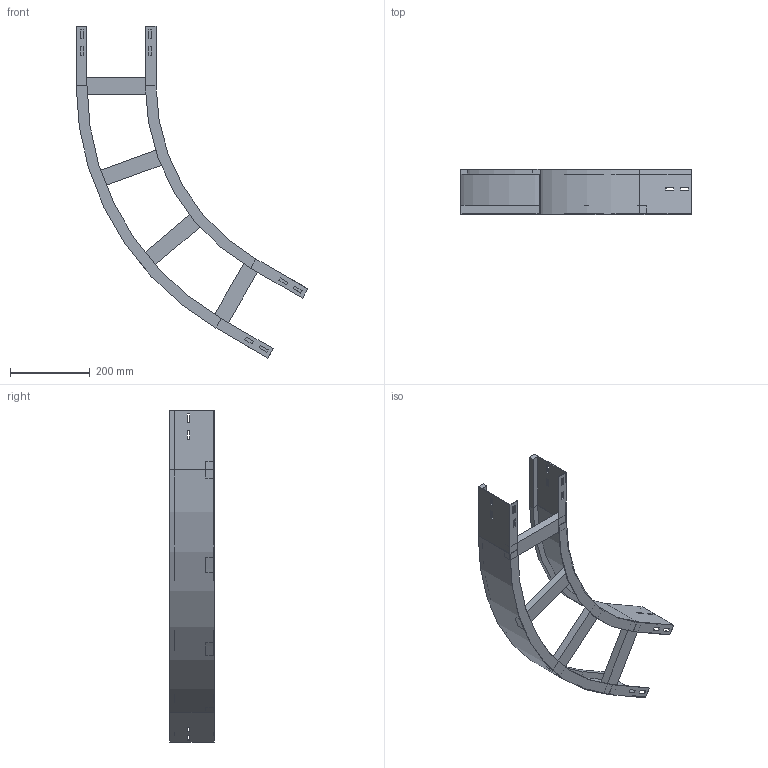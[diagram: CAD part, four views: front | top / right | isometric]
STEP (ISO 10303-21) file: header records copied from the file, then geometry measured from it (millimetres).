
FILE_DESCRIPTION (( 'STEP AP214' ), '1' );
FILE_NAME ('13B5J200.step', '2025-02-21T15:18:46', ( '' ), ( '' ), 'SwSTEP 2.0', 'SolidWorks 2023', '' );
FILE_SCHEMA (( 'AUTOMOTIVE_DESIGN' ));
Length unit declared in the file: millimetre
Products named in the file (4): 13B5J200; A2_LONGH.ESTERNO 60°_H112.5_R500+200; TRAVERSINO_200; A2_LONGH.INTERNO 60°_H112.5_R500
Assembly tree (6 placements, depth 2):
  13B5J200
    A2_LONGH.INTERNO 60°_H112.5_R500
    A2_LONGH.ESTERNO 60°_H112.5_R500+200
    TRAVERSINO_200  x4
Bounding box: 579.9 x 112.5 x 831.22 mm (x, y, z)
Volume: 1497161.5 mm3; surface area: 677554.1 mm2
Topology: 6 solids, 6 shells, 140 faces, 352 edges, 224 vertices
Faces by surface type: plane 132, cylinder 8
Entity records: 3829 total; most frequent: CARTESIAN_POINT 647, ORIENTED_EDGE 632, DIRECTION 594, EDGE_CURVE 316, VECTOR 300, LINE 300, VERTEX_POINT 200, EDGE_LOOP 154
